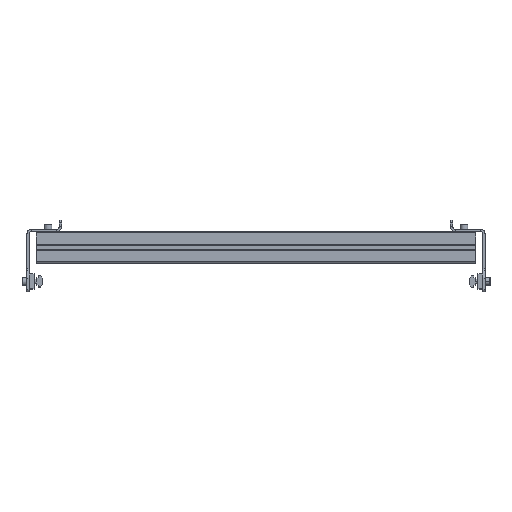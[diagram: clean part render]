
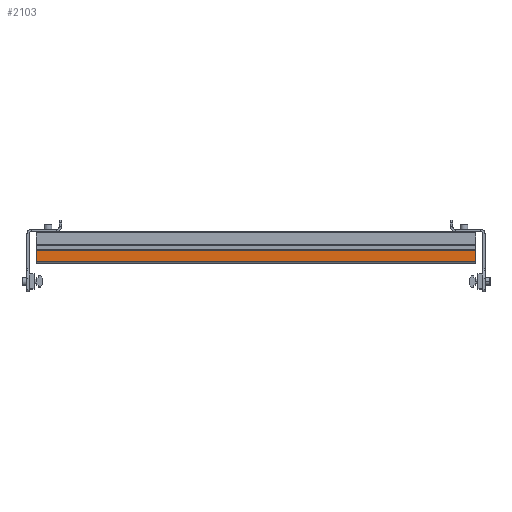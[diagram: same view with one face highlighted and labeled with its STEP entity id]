
A CAD part, top view. The second image highlights one B-rep face of the part: STEP entity #2103.
In plain terms, the highlighted planar face has unit normal (0, 0, 1) as drawn and (0, 1, 0) by its records, which use the part's own axes.
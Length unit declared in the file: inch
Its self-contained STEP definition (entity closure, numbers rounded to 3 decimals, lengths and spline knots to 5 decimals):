
#75 = DIRECTION ( 'NONE',  ( 0., -1., 0. ) ) ;
#191 = VERTEX_POINT ( 'NONE', #2996 ) ;
#574 = DIRECTION ( 'NONE',  ( 0., 0., 1. ) ) ;
#1105 = VECTOR ( 'NONE', #574, 39.37008 ) ;
#1192 = VERTEX_POINT ( 'NONE', #3650 ) ;
#1280 = ORIENTED_EDGE ( 'NONE', *, *, #8348, .T. ) ;
#1471 = PLANE ( 'NONE',  #7799 ) ;
#1531 = DIRECTION ( 'NONE',  ( 1., 0., 0. ) ) ;
#1892 = EDGE_CURVE ( 'NONE', #5156, #1192, #7873, .T. ) ;
#2103 = ADVANCED_FACE ( 'NONE', ( #5277 ), #1471, .F. ) ;
#2422 = EDGE_CURVE ( 'NONE', #5156, #7266, #7018, .T. ) ;
#2433 = EDGE_CURVE ( 'NONE', #191, #7266, #4355, .T. ) ;
#2496 = DIRECTION ( 'NONE',  ( 0., 0., -1. ) ) ;
#2717 = CARTESIAN_POINT ( 'NONE',  ( 0.7875, 0.441, -10.98 ) ) ;
#2996 = CARTESIAN_POINT ( 'NONE',  ( 0.725, 0.441, 10.98 ) ) ;
#3220 = ORIENTED_EDGE ( 'NONE', *, *, #2433, .F. ) ;
#3298 = CARTESIAN_POINT ( 'NONE',  ( -0.7875, 0.441, 75. ) ) ;
#3488 = CARTESIAN_POINT ( 'NONE',  ( 0.15033, 0.441, -10.98 ) ) ;
#3650 = CARTESIAN_POINT ( 'NONE',  ( 0.725, 0.441, -10.98 ) ) ;
#3659 = CARTESIAN_POINT ( 'NONE',  ( 0.15033, 0.441, 10.98 ) ) ;
#4333 = VECTOR ( 'NONE', #1531, 39.37008 ) ;
#4345 = VECTOR ( 'NONE', #6939, 39.37008 ) ;
#4355 = LINE ( 'NONE', #6415, #4345 ) ;
#4694 = EDGE_LOOP ( 'NONE', ( #1280, #6354, #4836, #3220 ) ) ;
#4836 = ORIENTED_EDGE ( 'NONE', *, *, #2422, .T. ) ;
#4949 = CARTESIAN_POINT ( 'NONE',  ( 0.725, 0.441, 75. ) ) ;
#5028 = LINE ( 'NONE', #4949, #7029 ) ;
#5156 = VERTEX_POINT ( 'NONE', #3488 ) ;
#5277 = FACE_OUTER_BOUND ( 'NONE', #4694, .T. ) ;
#6354 = ORIENTED_EDGE ( 'NONE', *, *, #1892, .F. ) ;
#6415 = CARTESIAN_POINT ( 'NONE',  ( 0.7875, 0.441, 10.98 ) ) ;
#6939 = DIRECTION ( 'NONE',  ( -1., 0., 0. ) ) ;
#7018 = LINE ( 'NONE', #7569, #1105 ) ;
#7029 = VECTOR ( 'NONE', #2496, 39.37008 ) ;
#7266 = VERTEX_POINT ( 'NONE', #3659 ) ;
#7269 = DIRECTION ( 'NONE',  ( 0., 0., -1. ) ) ;
#7569 = CARTESIAN_POINT ( 'NONE',  ( 0.15033, 0.441, -75. ) ) ;
#7799 = AXIS2_PLACEMENT_3D ( 'NONE', #3298, #75, #7269 ) ;
#7873 = LINE ( 'NONE', #2717, #4333 ) ;
#8348 = EDGE_CURVE ( 'NONE', #191, #1192, #5028, .T. ) ;
